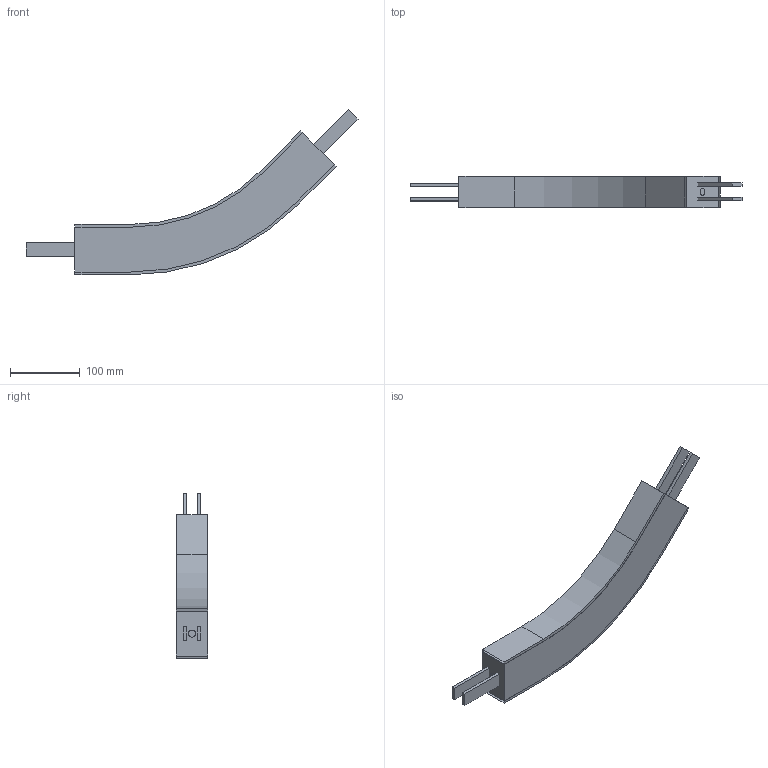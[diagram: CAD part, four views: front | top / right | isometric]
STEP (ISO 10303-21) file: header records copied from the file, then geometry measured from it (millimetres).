
FILE_DESCRIPTION(/* description */ ('Vertikaler Gleitbogen, 45°, R300'),/* implementation_level */ '2;1');
FILE_NAME(/* name */ 'T:\vdz0\Step Daten Website\modulflex FS-System\Vertikale Gleitbögen\FSBV45R300_53817.stp',/* time_stamp */ '2024-09-03T08:44:08+02:00',/* author */ ('lzb0'),/* organization */ ('modular automation GmbH'),/* preprocessor_version */ 'ST-DEVELOPER v18.1',/* originating_system */ 'Autodesk Inventor 2021',/* authorisation */ '');
FILE_SCHEMA (('AUTOMOTIVE_DESIGN { 1 0 10303 214 3 1 1 }'));
Length unit declared in the file: millimetre
Products named in the file (1): FSBV 45R300
Bounding box: 475.27 x 45 x 237.11 mm (x, y, z)
Volume: 1198944.6 mm3; surface area: 197568.5 mm2
Topology: 5 solids, 9 shells, 52 faces, 126 edges, 84 vertices
Faces by surface type: plane 44, cylinder 8
Full cylindrical faces by diameter (mm): 10 x2
Entity records: 1598 total; most frequent: CARTESIAN_POINT 270, DIRECTION 250, ORIENTED_EDGE 232, EDGE_CURVE 126, LINE 110, VECTOR 110, VERTEX_POINT 84, AXIS2_PLACEMENT_3D 70
